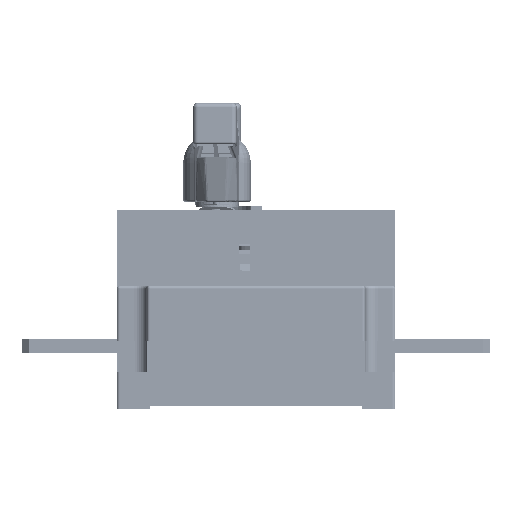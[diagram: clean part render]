
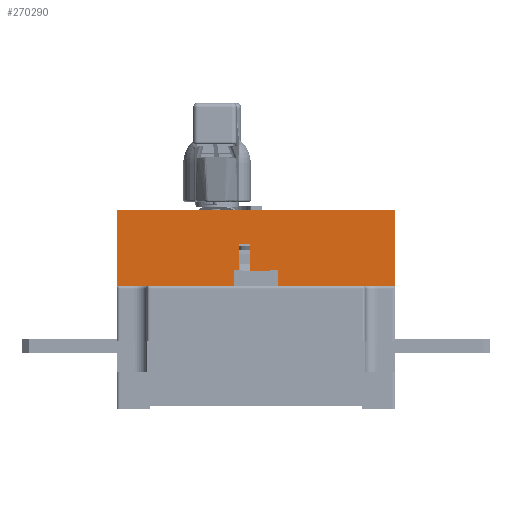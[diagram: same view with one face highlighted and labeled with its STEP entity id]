
A CAD part, left-side view. The second image highlights one B-rep face of the part: STEP entity #270290.
In plain terms, the highlighted planar face has unit normal (-1, 0, 0).
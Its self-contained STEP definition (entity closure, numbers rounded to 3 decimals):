
#3197 = ORIENTED_EDGE ( 'NONE', *, *, #43996, .F. ) ;
#9686 = VERTEX_POINT ( 'NONE', #121684 ) ;
#14021 = CARTESIAN_POINT ( 'NONE',  ( -65., 54.5, 100. ) ) ;
#17243 = ORIENTED_EDGE ( 'NONE', *, *, #77357, .F. ) ;
#26396 = ORIENTED_EDGE ( 'NONE', *, *, #126788, .T. ) ;
#28676 = VERTEX_POINT ( 'NONE', #152672 ) ;
#30566 = CARTESIAN_POINT ( 'NONE',  ( -65., 54.5, 100. ) ) ;
#31532 = LINE ( 'NONE', #116959, #231277 ) ;
#34585 = ORIENTED_EDGE ( 'NONE', *, *, #62180, .T. ) ;
#35269 = LINE ( 'NONE', #80084, #265582 ) ;
#43049 = DIRECTION ( 'NONE',  ( 1., 0., 0. ) ) ;
#43996 = EDGE_CURVE ( 'NONE', #234058, #190751, #79914, .T. ) ;
#46857 = VECTOR ( 'NONE', #85465, 1000. ) ;
#48572 = PLANE ( 'NONE',  #215554 ) ;
#62180 = EDGE_CURVE ( 'NONE', #221943, #190751, #163668, .T. ) ;
#77357 = EDGE_CURVE ( 'NONE', #200776, #234058, #31532, .T. ) ;
#79914 = LINE ( 'NONE', #14021, #233798 ) ;
#80084 = CARTESIAN_POINT ( 'NONE',  ( -65., 0., -4.5 ) ) ;
#83588 = CARTESIAN_POINT ( 'NONE',  ( -65., 30., -4.5 ) ) ;
#84776 = DIRECTION ( 'NONE',  ( 0., -1., 0. ) ) ;
#85465 = DIRECTION ( 'NONE',  ( 0., -1., 0. ) ) ;
#87513 = CARTESIAN_POINT ( 'NONE',  ( -65., 0., -12.5 ) ) ;
#89759 = EDGE_CURVE ( 'NONE', #221943, #91864, #35269, .T. ) ;
#91864 = VERTEX_POINT ( 'NONE', #83588 ) ;
#116959 = CARTESIAN_POINT ( 'NONE',  ( -65., 54.5, -100. ) ) ;
#117389 = DIRECTION ( 'NONE',  ( 0., 0., -1. ) ) ;
#119175 = DIRECTION ( 'NONE',  ( 0., -1., 0. ) ) ;
#120508 = CARTESIAN_POINT ( 'NONE',  ( -65., 0., 100. ) ) ;
#120728 = DIRECTION ( 'NONE',  ( 0., 1., 0. ) ) ;
#121684 = CARTESIAN_POINT ( 'NONE',  ( -65., 30., -12.5 ) ) ;
#126299 = ORIENTED_EDGE ( 'NONE', *, *, #89759, .F. ) ;
#126788 = EDGE_CURVE ( 'NONE', #200776, #28676, #261804, .T. ) ;
#128525 = DIRECTION ( 'NONE',  ( 0., 0., -1. ) ) ;
#134023 = CARTESIAN_POINT ( 'NONE',  ( -65., 54.5, -100. ) ) ;
#134262 = EDGE_CURVE ( 'NONE', #91864, #9686, #159456, .T. ) ;
#142479 = CARTESIAN_POINT ( 'NONE',  ( -65., 0., -12.5 ) ) ;
#149741 = CARTESIAN_POINT ( 'NONE',  ( -65., 0., -4.5 ) ) ;
#152672 = CARTESIAN_POINT ( 'NONE',  ( -65., 0., -100. ) ) ;
#154134 = EDGE_LOOP ( 'NONE', ( #264647, #219767, #214004, #126299, #34585, #3197, #17243, #26396 ) ) ;
#154402 = VECTOR ( 'NONE', #84776, 1000. ) ;
#157628 = CARTESIAN_POINT ( 'NONE',  ( -65., 0., -100. ) ) ;
#159456 = LINE ( 'NONE', #244857, #249859 ) ;
#163668 = LINE ( 'NONE', #167796, #262684 ) ;
#167796 = CARTESIAN_POINT ( 'NONE',  ( -65., 0., -100. ) ) ;
#172397 = CARTESIAN_POINT ( 'NONE',  ( -65., 54.5, -100. ) ) ;
#190751 = VERTEX_POINT ( 'NONE', #120508 ) ;
#192707 = LINE ( 'NONE', #157628, #245360 ) ;
#196859 = DIRECTION ( 'NONE',  ( 0., 0., 1. ) ) ;
#200776 = VERTEX_POINT ( 'NONE', #172397 ) ;
#202355 = DIRECTION ( 'NONE',  ( 0., 0., 1. ) ) ;
#214004 = ORIENTED_EDGE ( 'NONE', *, *, #134262, .F. ) ;
#214945 = LINE ( 'NONE', #87513, #154402 ) ;
#215554 = AXIS2_PLACEMENT_3D ( 'NONE', #134023, #43049, #128525 ) ;
#218218 = EDGE_CURVE ( 'NONE', #28676, #226765, #192707, .T. ) ;
#219767 = ORIENTED_EDGE ( 'NONE', *, *, #276257, .F. ) ;
#221943 = VERTEX_POINT ( 'NONE', #149741 ) ;
#226765 = VERTEX_POINT ( 'NONE', #142479 ) ;
#231277 = VECTOR ( 'NONE', #202355, 1000. ) ;
#233798 = VECTOR ( 'NONE', #119175, 1000. ) ;
#234058 = VERTEX_POINT ( 'NONE', #30566 ) ;
#240435 = FACE_OUTER_BOUND ( 'NONE', #154134, .T. ) ;
#244857 = CARTESIAN_POINT ( 'NONE',  ( -65., 30., -12.5 ) ) ;
#245360 = VECTOR ( 'NONE', #196859, 1000. ) ;
#249859 = VECTOR ( 'NONE', #117389, 1000. ) ;
#253200 = DIRECTION ( 'NONE',  ( 0., 0., 1. ) ) ;
#256278 = CARTESIAN_POINT ( 'NONE',  ( -65., 54.5, -100. ) ) ;
#261804 = LINE ( 'NONE', #256278, #46857 ) ;
#262684 = VECTOR ( 'NONE', #253200, 1000. ) ;
#264647 = ORIENTED_EDGE ( 'NONE', *, *, #218218, .T. ) ;
#265582 = VECTOR ( 'NONE', #120728, 1000. ) ;
#270290 = ADVANCED_FACE ( 'NONE', ( #240435 ), #48572, .F. ) ;
#276257 = EDGE_CURVE ( 'NONE', #9686, #226765, #214945, .T. ) ;
